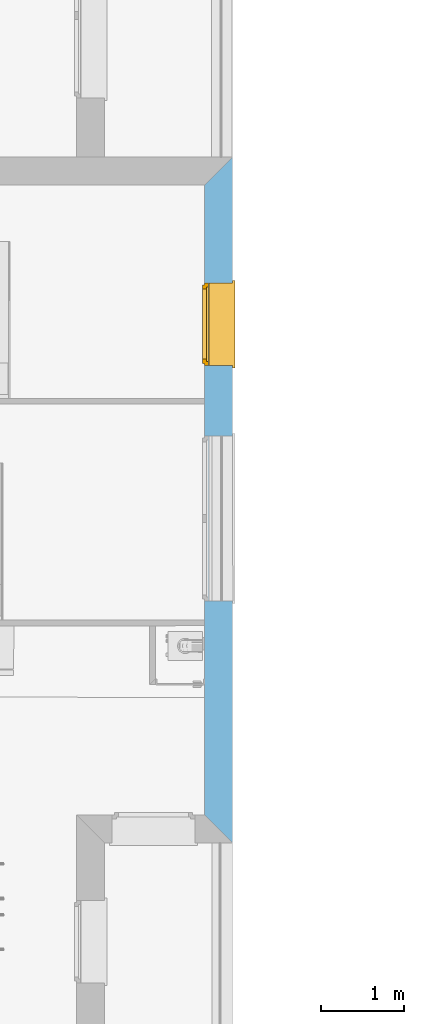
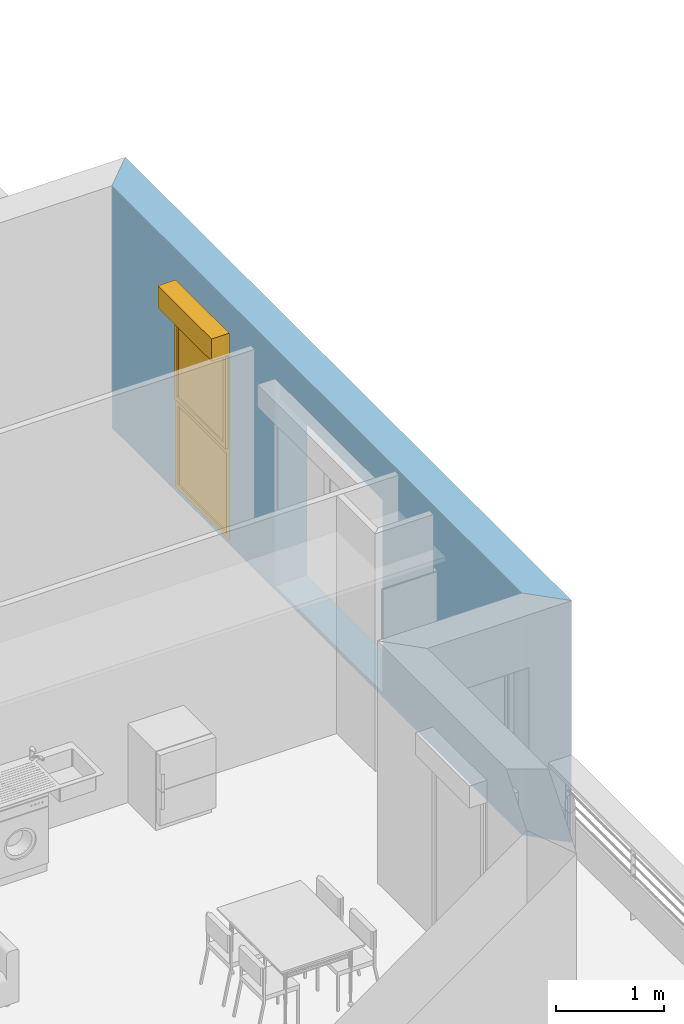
# One storey, part 18 of 164: 1 window, 2 openings, plus 1 element that does not belong to this part.
"""IFC2X3 building model written with IfcOpenShell, lengths in millimetres."""

from ifc_helpers import new_model, entity, si_unit, converted_unit, derived_unit, money_unit, direction, frame, origin_with_axes, place, context, subcontext, project, spatial, polyline, outline, extrude, open_shell, faceted_brep, surface_model, source, transform, mapped, material, layer, layer_set, layer_usage, type_object, element, fill, save


model = new_model("IFC2X3")

# Units and contexts
model_context = context("Model", 3, precision=0.01, world=origin_with_axes(), true_north=direction((0.0, 1.0)))
body_context = subcontext(model_context, "Body", "Model", "MODEL_VIEW")
ifc_project = project(units=[si_unit("LENGTHUNIT", "METRE", prefix="MILLI"), si_unit("AREAUNIT", "SQUARE_METRE"), si_unit("VOLUMEUNIT", "CUBIC_METRE"), converted_unit("PLANEANGLEUNIT", "DEGREE", entity("IfcPlaneAngleMeasure", 0.0174532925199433), si_unit("PLANEANGLEUNIT", "RADIAN"), dimensions=[0, 0, 0, 0, 0, 0, 0]), money_unit("USD"), converted_unit("TIMEUNIT", "Year", entity("IfcTimeMeasure", 31557600.0), si_unit("TIMEUNIT", "SECOND"), dimensions=[0, 0, 1, 0, 0, 0, 0]), si_unit("MASSUNIT", "GRAM", prefix="KILO"), si_unit("THERMODYNAMICTEMPERATUREUNIT", "DEGREE_CELSIUS"), si_unit("LUMINOUSINTENSITYUNIT", "LUMEN"), si_unit("ENERGYUNIT", "JOULE", prefix="MEGA"), derived_unit("THERMALCONDUCTANCEUNIT", [(si_unit("POWERUNIT", "WATT"), 1), (si_unit("LENGTHUNIT", "METRE"), -1), (si_unit("THERMODYNAMICTEMPERATUREUNIT", "KELVIN"), -1)]), derived_unit("SPECIFICHEATCAPACITYUNIT", [(si_unit("ENERGYUNIT", "JOULE"), 1), (si_unit("MASSUNIT", "GRAM", prefix="KILO"), -1), (si_unit("THERMODYNAMICTEMPERATUREUNIT", "KELVIN"), -1)]), derived_unit("MASSDENSITYUNIT", [(si_unit("MASSUNIT", "GRAM", prefix="KILO"), 1), (si_unit("VOLUMEUNIT", "CUBIC_METRE"), -1)])], contexts=[model_context])

# Site, building, storey
site_placement = place(None, origin_with_axes())
site = spatial("IfcSite", under=ifc_project, at=site_placement, Name="Site", CompositionType="ELEMENT")
building_placement = place(site_placement, origin_with_axes())
building = spatial("IfcBuilding", under=site, at=building_placement, Name="Bâtiment", CompositionType="ELEMENT")
storey_placement = place(building_placement, frame((0.0, 0.0, 5750.0), z_axis=(0.0, 0.0, 1.0), x_axis=(1.0, 0.0, 0.0)))
storey = spatial("IfcBuildingStorey", under=building, at=storey_placement, Name="Etage1", CompositionType="ELEMENT", Elevation=5750.0)

# Wall, openings, window
ifc_material_1 = material(Name="Parpaing 312445824")
ifc_layer_1 = layer(ifc_material_1, 180.0, ventilated="UNKNOWN")
ifc_material_2 = material(Name="Isolant styromousse 301821074")
ifc_layer_2 = layer(ifc_material_2, 160.0, ventilated="UNKNOWN")
ifc_layer_set = layer_set([ifc_layer_1, ifc_layer_2], Name="isol int 18+16 0018356637")
ifc_layer_usage = layer_usage(ifc_layer_set, "AXIS2", "POSITIVE", 0.0)
wall_type = type_object("IfcWallType", Name="isol int 18+16 0018356637 340", PredefinedType="NOTDEFINED")
wall_placement = place(storey_placement, frame((2234356.671296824, -655041.4677782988, 0.0), z_axis=(0.0, 0.0, 1.0), x_axis=(0.0, 1.0, 0.0)))
wall = element("IfcWallStandardCase", 1, at=wall_placement, inside=storey, type_object=wall_type, material=ifc_layer_usage, Name="Mur-144", context=body_context, shape_type="SweptSolid", body=[
    extrude(outline(polyline([(0.0, 0.0), (8303.026474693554, 0.0), (7963.02647469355, 340.0000000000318), (339.9999999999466, 340.0000000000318), (0.0, 0.0)])), origin_with_axes(), (0.0, 0.0, 1.0), 2750.0),
])
opening_1_placement = place(wall_placement, frame((3927.8378465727, -2.273736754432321e-10, 49.99999999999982), z_axis=(0.0, 0.0, 1.0), x_axis=(1.0, 0.0, 0.0)))
element("IfcOpeningElement", 2, at=opening_1_placement, cuts=wall, Name="Fen-207", context=body_context, shape_type="Brep", body=[
    faceted_brep([(1000.0, 290.0000000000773, 2100.0), (1000.0, 280.0000000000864, 2100.0), (1000.0, -0.9999999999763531, 2100.0), (1000.0, -0.9999999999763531, 0.0), (1000.0, 290.0000000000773, 0.0), (1000.0, 341.0000000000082, 2100.0), (1000.0, 530.0000000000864, 2100.0), (1000.0, 530.0000000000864, 2350.0), (1000.0, 280.0000000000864, 2350.0), (-1000.0, 280.0000000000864, 2100.0), (-1000.0, -0.9999999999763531, 2100.0), (-1000.0, -0.9999999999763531, 0.0), (-1000.0, 290.0000000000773, 0.0), (-1000.0, 341.0000000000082, 0.0), (1000.0, 341.0000000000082, 0.0), (-1000.0, 341.0000000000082, 2100.0), (-1000.0, 530.0000000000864, 2100.0), (-1000.0, 530.0000000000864, 2350.0), (-1000.0, 280.0000000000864, 2350.0), (-1000.0, 290.0000000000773, 2100.0)], [[[0, 1, 2, 3, 4]], [[1, 0, 5, 6, 7, 8]], [[1, 9, 10, 2]], [[10, 11, 3, 2]], [[4, 3, 11, 12, 13, 14]], [[5, 0, 4, 14]], [[5, 15, 16, 6]], [[7, 6, 16, 17]], [[8, 7, 17, 18]], [[9, 1, 8, 18]], [[9, 19, 12, 11, 10]], [[19, 15, 13, 12]], [[15, 5, 14, 13]], [[19, 9, 18, 17, 16, 15]]]),
])
opening_2_placement = place(wall_placement, frame((6281.330882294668, -2.273736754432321e-10, 49.99999999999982), z_axis=(0.0, 0.0, 1.0), x_axis=(1.0, 0.0, 0.0)))
opening_2 = element("IfcOpeningElement", 3, at=opening_2_placement, cuts=wall, Name="Fen-133", context=body_context, shape_type="Brep", body=[
    faceted_brep([(500.0, 290.0000000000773, 2100.0), (500.0, 280.0000000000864, 2100.0), (500.0, -0.9999999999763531, 2100.0), (500.0, -0.9999999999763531, 0.0), (500.0, 290.0000000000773, 0.0), (500.0, 341.0000000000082, 2100.0), (500.0, 530.0000000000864, 2100.0), (500.0, 530.0000000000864, 2350.0), (500.0, 280.0000000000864, 2350.0), (-500.0, 280.0000000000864, 2100.0), (-500.0, -0.9999999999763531, 2100.0), (-500.0, -0.9999999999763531, 0.0), (-500.0, 290.0000000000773, 0.0), (-500.0, 341.0000000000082, 0.0), (500.0, 341.0000000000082, 0.0), (-500.0, 341.0000000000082, 2100.0), (-500.0, 530.0000000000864, 2100.0), (-500.0, 530.0000000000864, 2350.0), (-500.0, 280.0000000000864, 2350.0), (-500.0, 290.0000000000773, 2100.0)], [[[0, 1, 2, 3, 4]], [[1, 0, 5, 6, 7, 8]], [[1, 9, 10, 2]], [[10, 11, 3, 2]], [[4, 3, 11, 12, 13, 14]], [[5, 0, 4, 14]], [[5, 15, 16, 6]], [[7, 6, 16, 17]], [[8, 7, 17, 18]], [[9, 1, 8, 18]], [[9, 19, 12, 11, 10]], [[19, 15, 13, 12]], [[15, 5, 14, 13]], [[19, 9, 18, 17, 16, 15]]]),
])
window_style = type_object("IfcWindowStyle", Name="Fenêtre 27", ConstructionType="NOTDEFINED", OperationType="DOUBLE_PANEL_HORIZONTAL", ParameterTakesPrecedence=False, Sizeable=False)
shared_shape = source(origin_with_axes(), body_context, "Body", "SurfaceModel", [
    surface_model("IfcShellBasedSurfaceModel", [(500.0, -51.00000000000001, 40.00000000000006), (500.0, -51.00000000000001, 50.00000000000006), (-500.0, -51.00000000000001, 50.0), (-500.0, -51.00000000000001, 40.0), (530.0, -369.9999999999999, 28.96551724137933), (530.0, -339.9999999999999, 30.00324289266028), (500.0, -339.9999999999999, 30.00324289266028), (-500.0, -339.9999999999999, 30.00324289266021), (-530.0, -339.9999999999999, 30.00324289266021), (-530.0, -369.9999999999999, 28.96551724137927), (530.0, -369.9999999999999, 8.96551724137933), (-530.0, -369.9999999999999, 8.965517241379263), (530.0, -359.9999999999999, 18.96551724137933), (-530.0, -359.9999999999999, 18.96551724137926)], [open_shell([[[0, 1, 2, 3]], [[4, 5, 6, 0, 3, 7, 8, 9]], [[10, 4, 9, 11]], [[12, 10, 11, 13]]])]),
    faceted_brep([(-500.0, -59.99999999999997, 2350.0), (-497.0, -59.99999999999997, 2350.0), (-497.0, 190.0, 2350.0), (-500.0, 190.0, 2350.0), (-500.0, -59.99999999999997, 2100.0), (-497.0, -59.99999999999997, 2100.0), (-497.0, 190.0, 2100.0), (-500.0, 190.0, 2100.0)], [[[0, 1, 2, 3]], [[4, 5, 1, 0]], [[1, 5, 6, 2]], [[3, 2, 6, 7]], [[0, 3, 7, 4]], [[7, 6, 5, 4]]]),
    faceted_brep([(497.0, -59.99999999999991, 2350.0), (500.0, -59.99999999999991, 2350.0), (500.0, 190.0000000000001, 2350.0), (497.0, 190.0000000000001, 2350.0), (497.0, -59.99999999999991, 2100.0), (500.0, -59.99999999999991, 2100.0), (500.0, 190.0000000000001, 2100.0), (497.0, 190.0000000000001, 2100.0)], [[[0, 1, 2, 3]], [[4, 5, 1, 0]], [[1, 5, 6, 2]], [[3, 2, 6, 7]], [[0, 3, 7, 4]], [[7, 6, 5, 4]]]),
    faceted_brep([(-497.0, -60.0, 2100.0), (497.0, -59.99999999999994, 2100.0), (497.0, -59.99999999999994, 2350.0), (-497.0, -60.0, 2350.0), (-497.0, -56.99999999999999, 2100.0), (497.0, -56.99999999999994, 2100.0), (497.0, -56.99999999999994, 2347.0), (497.0, 187.0000000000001, 2347.0), (497.0, 187.0000000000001, 2103.0), (497.0, -37.99999999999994, 2103.0), (497.0, -37.99999999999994, 2100.0), (497.0, 190.0000000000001, 2100.0), (497.0, 190.0000000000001, 2350.0), (-497.0, 190.0, 2350.0), (-497.0, 190.0, 2100.0), (-497.0, -37.99999999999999, 2100.0), (-497.0, -37.99999999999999, 2103.0), (-497.0, 187.0, 2103.0), (-497.0, 187.0, 2347.0), (-497.0, -56.99999999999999, 2347.0)], [[[0, 1, 2, 3]], [[4, 5, 1, 0]], [[1, 5, 6, 7, 8, 9, 10, 11, 12, 2]], [[3, 2, 12, 13]], [[0, 3, 13, 14, 15, 16, 17, 18, 19, 4]], [[19, 6, 5, 4]], [[18, 7, 6, 19]], [[17, 8, 7, 18]], [[16, 9, 8, 17]], [[15, 10, 9, 16]], [[14, 11, 10, 15]], [[13, 12, 11, 14]]]),
    faceted_brep([(-494.0, -40.37442957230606, 2206.419644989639), (-494.0, -41.99999999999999, 2225.0), (-494.0, -40.37442957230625, 2243.580355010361), (-494.0, -35.54711042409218, 2261.596155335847), (-494.0, -27.66471820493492, 2278.5), (-494.0, -16.96675541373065, 2293.77827423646), (-494.0, -3.778274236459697, 2306.966755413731), (-494.0, 11.5, 2317.664718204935), (-494.0, 28.40384466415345, 2325.547110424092), (-494.0, 46.41964498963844, 2330.374429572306), (-494.0, 64.99999999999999, 2332.0), (-494.0, 83.58035501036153, 2330.374429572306), (-494.0, 101.5961553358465, 2325.547110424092), (-494.0, 118.5, 2317.664718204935), (-494.0, 133.7782742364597, 2306.966755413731), (-494.0, 146.9667554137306, 2293.77827423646), (-494.0, 157.6647182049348, 2278.5), (-494.0, 165.5471104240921, 2261.596155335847), (-494.0, 170.3744295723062, 2243.580355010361), (-494.0, 171.9999999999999, 2225.0), (-494.0, 170.3744295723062, 2206.419644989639), (-494.0, 165.5471104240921, 2188.403844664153), (-494.0, 157.6647182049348, 2171.5), (-494.0, 146.9667554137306, 2156.22172576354), (-494.0, 133.7782742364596, 2143.03324458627), (-494.0, 118.4999999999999, 2132.335281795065), (-494.0, 101.5961553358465, 2124.452889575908), (-494.0, 83.58035501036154, 2119.625570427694), (-494.0, 65.00000000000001, 2118.0), (-494.0, 46.4196449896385, 2119.625570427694), (-494.0, 28.40384466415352, 2124.452889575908), (-494.0, 11.50000000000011, 2132.335281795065), (-494.0, -3.778274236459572, 2143.03324458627), (-494.0, -16.9667554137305, 2156.22172576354), (-494.0, -27.66471820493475, 2171.5), (-494.0, -35.54711042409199, 2188.403844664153), (494.0, -40.374429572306, 2206.419644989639), (494.0, -41.99999999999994, 2225.0), (494.0, -40.37442957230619, 2243.580355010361), (494.0, -35.54711042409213, 2261.596155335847), (494.0, -27.66471820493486, 2278.5), (494.0, -16.96675541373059, 2293.77827423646), (494.0, -3.778274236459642, 2306.966755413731), (494.0, 11.50000000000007, 2317.664718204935), (494.0, 28.40384466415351, 2325.547110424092), (494.0, 46.41964498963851, 2330.374429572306), (494.0, 65.00000000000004, 2332.0), (494.0, 83.58035501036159, 2330.374429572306), (494.0, 101.5961553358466, 2325.547110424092), (494.0, 118.5, 2317.664718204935), (494.0, 133.7782742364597, 2306.966755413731), (494.0, 146.9667554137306, 2293.77827423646), (494.0, 157.6647182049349, 2278.5), (494.0, 165.5471104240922, 2261.596155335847), (494.0, 170.3744295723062, 2243.580355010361), (494.0, 172.0, 2225.0), (494.0, 170.3744295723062, 2206.419644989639), (494.0, 165.5471104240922, 2188.403844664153), (494.0, 157.6647182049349, 2171.5), (494.0, 146.9667554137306, 2156.22172576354), (494.0, 133.7782742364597, 2143.03324458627), (494.0, 118.5, 2132.335281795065), (494.0, 101.5961553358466, 2124.452889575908), (494.0, 83.5803550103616, 2119.625570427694), (494.0, 65.00000000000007, 2118.0), (494.0, 46.41964498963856, 2119.625570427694), (494.0, 28.40384466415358, 2124.452889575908), (494.0, 11.50000000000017, 2132.335281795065), (494.0, -3.778274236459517, 2143.03324458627), (494.0, -16.96675541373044, 2156.22172576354), (494.0, -27.6647182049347, 2171.5), (494.0, -35.54711042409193, 2188.403844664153)], [[[0, 1, 2, 3, 4, 5, 6, 7, 8, 9, 10, 11, 12, 13, 14, 15, 16, 17, 18, 19, 20, 21, 22, 23, 24, 25, 26, 27, 28, 29, 30, 31, 32, 33, 34, 35]], [[0, 36, 37, 1]], [[1, 37, 38, 2]], [[2, 38, 39, 3]], [[3, 39, 40, 4]], [[4, 40, 41, 5]], [[5, 41, 42, 6]], [[6, 42, 43, 7]], [[7, 43, 44, 8]], [[8, 44, 45, 9]], [[9, 45, 46, 10]], [[10, 46, 47, 11]], [[11, 47, 48, 12]], [[12, 48, 49, 13]], [[13, 49, 50, 14]], [[14, 50, 51, 15]], [[15, 51, 52, 16]], [[16, 52, 53, 17]], [[17, 53, 54, 18]], [[18, 54, 55, 19]], [[19, 55, 56, 20]], [[20, 56, 57, 21]], [[21, 57, 58, 22]], [[22, 58, 59, 23]], [[23, 59, 60, 24]], [[24, 60, 61, 25]], [[25, 61, 62, 26]], [[26, 62, 63, 27]], [[27, 63, 64, 28]], [[28, 64, 65, 29]], [[29, 65, 66, 30]], [[30, 66, 67, 31]], [[31, 67, 68, 32]], [[32, 68, 69, 33]], [[33, 69, 70, 34]], [[34, 70, 71, 35]], [[35, 71, 36, 0]], [[36, 71, 70, 69, 68, 67, 66, 65, 64, 63, 62, 61, 60, 59, 58, 57, 56, 55, 54, 53, 52, 51, 50, 49, 48, 47, 46, 45, 44, 43, 42, 41, 40, 39, 38, 37]]]),
    faceted_brep([(500.0, -34.99999999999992, 30.0), (500.0, -34.99999999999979, 2100.0), (500.0, -59.99999999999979, 2100.0), (500.0, -59.99999999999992, 30.0), (475.0, -34.99999999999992, 30.0), (475.0, -34.99999999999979, 2100.0), (475.0, -37.99999999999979, 2100.0), (497.0, -37.99999999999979, 2100.0), (497.0, -56.99999999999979, 2100.0), (475.0, -56.99999999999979, 2100.0), (475.0, -59.99999999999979, 2100.0), (475.0, -59.99999999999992, 30.0), (475.0, -56.99999999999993, 30.0), (497.0, -56.99999999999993, 30.0), (497.0, -37.99999999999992, 30.0), (475.0, -37.99999999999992, 30.0)], [[[0, 1, 2, 3]], [[4, 5, 1, 0]], [[1, 5, 6, 7, 8, 9, 10, 2]], [[3, 2, 10, 11]], [[0, 3, 11, 12, 13, 14, 15, 4]], [[15, 6, 5, 4]], [[14, 7, 6, 15]], [[13, 8, 7, 14]], [[12, 9, 8, 13]], [[11, 10, 9, 12]]]),
    faceted_brep([(-500.0, -34.99999999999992, 30.0), (-500.0, -59.99999999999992, 30.0), (-500.0, -59.99999999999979, 2100.0), (-500.0, -34.99999999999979, 2100.0), (-475.0, -34.99999999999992, 30.0), (-475.0, -37.99999999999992, 30.0), (-497.0, -37.99999999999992, 30.0), (-497.0, -56.99999999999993, 30.0), (-475.0, -56.99999999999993, 30.0), (-475.0, -59.99999999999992, 30.0), (-475.0, -59.99999999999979, 2100.0), (-475.0, -56.99999999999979, 2100.0), (-497.0, -56.99999999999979, 2100.0), (-497.0, -37.99999999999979, 2100.0), (-475.0, -37.99999999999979, 2100.0), (-475.0, -34.99999999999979, 2100.0)], [[[0, 1, 2, 3]], [[0, 4, 5, 6, 7, 8, 9, 1]], [[1, 9, 10, 2]], [[3, 2, 10, 11, 12, 13, 14, 15]], [[4, 0, 3, 15]], [[5, 4, 15, 14]], [[6, 5, 14, 13]], [[7, 6, 13, 12]], [[8, 7, 12, 11]], [[9, 8, 11, 10]]]),
    faceted_brep([(497.0, -46.66666666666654, 2225.0), (497.0, -46.66666666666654, 2216.666666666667), (-497.0, -46.6666666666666, 2216.666666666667), (-497.0, -46.6666666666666, 2225.0), (497.0, -51.66666666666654, 2225.0), (497.0, -51.66666666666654, 2216.666666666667), (497.0, -49.99999999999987, 2200.0), (497.0, -44.99999999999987, 2200.0), (-497.0, -44.99999999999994, 2200.0), (-497.0, -49.99999999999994, 2200.0), (-497.0, -51.6666666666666, 2216.666666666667), (-497.0, -51.6666666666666, 2225.0)], [[[0, 1, 2, 3]], [[4, 5, 6, 7, 1, 0]], [[2, 1, 7, 8]], [[3, 2, 8, 9, 10, 11]], [[3, 11, 4, 0]], [[10, 5, 4, 11]], [[9, 6, 5, 10]], [[8, 7, 6, 9]]]),
    faceted_brep([(-497.0, -44.99999999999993, 2200.0), (497.0, -44.99999999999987, 2200.0), (497.0, -46.66666666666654, 2183.333333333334), (-497.0, -46.6666666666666, 2183.333333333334), (-497.0, -49.99999999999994, 2200.0), (497.0, -49.99999999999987, 2200.0), (497.0, -51.66666666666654, 2183.333333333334), (497.0, -51.66666666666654, 2166.666666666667), (497.0, -49.99999999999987, 2150.000000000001), (497.0, -44.99999999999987, 2150.000000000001), (497.0, -46.66666666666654, 2166.666666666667), (-497.0, -46.6666666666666, 2166.666666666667), (-497.0, -44.99999999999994, 2150.000000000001), (-497.0, -49.99999999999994, 2150.000000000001), (-497.0, -51.6666666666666, 2166.666666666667), (-497.0, -51.6666666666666, 2183.333333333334)], [[[0, 1, 2, 3]], [[4, 5, 1, 0]], [[1, 5, 6, 7, 8, 9, 10, 2]], [[3, 2, 10, 11]], [[0, 3, 11, 12, 13, 14, 15, 4]], [[15, 6, 5, 4]], [[14, 7, 6, 15]], [[13, 8, 7, 14]], [[12, 9, 8, 13]], [[11, 10, 9, 12]]]),
    faceted_brep([(-497.0, -44.99999999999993, 2150.000000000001), (497.0, -44.99999999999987, 2150.000000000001), (497.0, -46.66666666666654, 2133.333333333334), (-497.0, -46.6666666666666, 2133.333333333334), (-497.0, -49.99999999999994, 2150.000000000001), (497.0, -49.99999999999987, 2150.000000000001), (497.0, -51.66666666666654, 2133.333333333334), (497.0, -51.66666666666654, 2116.666666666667), (497.0, -49.99999999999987, 2100.000000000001), (497.0, -44.99999999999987, 2100.000000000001), (497.0, -46.66666666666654, 2116.666666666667), (-497.0, -46.6666666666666, 2116.666666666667), (-497.0, -44.99999999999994, 2100.000000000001), (-497.0, -49.99999999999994, 2100.000000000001), (-497.0, -51.6666666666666, 2116.666666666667), (-497.0, -51.6666666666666, 2133.333333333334)], [[[0, 1, 2, 3]], [[4, 5, 1, 0]], [[1, 5, 6, 7, 8, 9, 10, 2]], [[3, 2, 10, 11]], [[0, 3, 11, 12, 13, 14, 15, 4]], [[15, 6, 5, 4]], [[14, 7, 6, 15]], [[13, 8, 7, 14]], [[12, 9, 8, 13]], [[11, 10, 9, 12]]]),
    faceted_brep([(-475.0000000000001, 0.0, 2050.0), (-500.0, 0.0, 2050.0), (-500.0, -50.00000000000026, 2050.0), (-450.0, -50.00000000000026, 2050.0), (-450.0, -25.00000000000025, 2050.0), (-475.0000000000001, -25.00000000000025, 2050.0), (-475.0000000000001, 0.0, 1025.0), (-450.0, 0.0, 1025.0), (-450.0, 0.0, 950.0), (-450.0, 0.0, 50.00000000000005), (-500.0, 0.0, 50.00000000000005), (-500.0, -50.00000000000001, 50.00000000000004), (-450.0, -50.00000000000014, 1050.0), (-450.0, -50.00000000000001, 50.00000000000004), (-450.0, -50.00000000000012, 950.0), (-450.0, -25.00000000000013, 1050.0), (-450.0, -25.00000000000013, 1025.0), (-475.0000000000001, -25.00000000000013, 1025.0)], [[[0, 1, 2, 3, 4, 5]], [[6, 7, 8, 9, 10, 1, 0]], [[1, 10, 11, 2]], [[12, 3, 2, 11, 13, 14]], [[4, 3, 12, 15]], [[15, 16, 17, 5, 4]], [[5, 17, 6, 0]], [[6, 17, 16, 7]], [[16, 15, 12, 14, 8, 7]], [[9, 8, 14, 13]], [[10, 9, 13, 11]]]),
    faceted_brep([(450.0, -25.00000000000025, 2050.0), (450.0, -50.00000000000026, 2050.0), (500.0, -50.00000000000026, 2050.0), (500.0, 0.0, 2050.0), (475.0000000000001, 0.0, 2050.0), (475.0000000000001, -25.00000000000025, 2050.0), (450.0, -25.00000000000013, 1050.0), (450.0, -50.00000000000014, 1050.0), (500.0, -50.00000000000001, 50.00000000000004), (450.0, -50.00000000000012, 950.0), (450.0, -50.00000000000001, 50.00000000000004), (500.0, 0.0, 50.00000000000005), (475.0000000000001, 0.0, 1025.0), (450.0, 0.0, 50.00000000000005), (450.0, 0.0, 950.0), (450.0, 0.0, 1025.0), (475.0000000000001, -25.00000000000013, 1025.0), (450.0, -25.00000000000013, 1025.0)], [[[0, 1, 2, 3, 4, 5]], [[6, 7, 1, 0]], [[8, 2, 1, 7, 9, 10]], [[11, 3, 2, 8]], [[12, 4, 3, 11, 13, 14, 15]], [[12, 16, 5, 4]], [[5, 16, 17, 6, 0]], [[17, 15, 14, 9, 7, 6]], [[14, 13, 10, 9]], [[13, 11, 8, 10]], [[15, 17, 16, 12]]]),
    faceted_brep([(-450.0, -25.00000000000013, 1050.0), (-450.0, -50.00000000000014, 1050.0), (450.0, -50.00000000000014, 1050.0), (450.0, -25.00000000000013, 1050.0), (-450.0, -25.00000000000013, 1025.0), (-450.0, 0.0, 1025.0), (-450.0, 0.0, 950.0), (-450.0, -50.00000000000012, 950.0), (450.0, -50.00000000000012, 950.0), (450.0, -25.00000000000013, 1025.0), (450.0, 0.0, 950.0), (450.0, 0.0, 1025.0)], [[[0, 1, 2, 3]], [[4, 5, 6, 7, 1, 0]], [[8, 2, 1, 7]], [[9, 3, 2, 8, 10, 11]], [[9, 4, 0, 3]], [[5, 4, 9, 11]], [[11, 10, 6, 5]], [[6, 10, 8, 7]]]),
    faceted_brep([(-475.0000000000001, 0.0, 2050.0), (-500.0, 0.0, 2050.0), (-500.0, 0.0, 2100.0), (500.0, 0.0, 2100.0), (500.0, 0.0, 2050.0), (475.0000000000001, 0.0, 2050.0), (475.0000000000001, 0.0, 2075.0), (-475.0000000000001, 0.0, 2075.0), (-475.0000000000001, -25.00000000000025, 2050.0), (-450.0, -25.00000000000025, 2050.0), (-450.0, -50.00000000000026, 2050.0), (-500.0, -50.00000000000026, 2050.0), (-500.0, -50.00000000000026, 2100.0), (500.0, -50.00000000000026, 2100.0), (500.0, -50.00000000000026, 2050.0), (475.0000000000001, -25.00000000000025, 2050.0), (450.0, -50.00000000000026, 2050.0), (450.0, -25.00000000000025, 2050.0), (475.0000000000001, -25.00000000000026, 2075.0), (-475.0000000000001, -25.00000000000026, 2075.0)], [[[0, 1, 2, 3, 4, 5, 6, 7]], [[8, 9, 10, 11, 1, 0]], [[2, 1, 11, 12]], [[3, 2, 12, 13]], [[4, 3, 13, 14]], [[15, 5, 4, 14, 16, 17]], [[5, 15, 18, 6]], [[6, 18, 19, 7]], [[7, 19, 8, 0]], [[17, 9, 8, 19, 18, 15]], [[17, 16, 10, 9]], [[14, 13, 12, 11, 10, 16]]]),
    faceted_brep([(-450.0, -50.00000000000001, 50.0), (-450.0, 0.0, 50.00000000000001), (-500.0, 0.0, 50.00000000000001), (-500.0, -50.00000000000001, 50.0), (450.0, -50.00000000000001, 50.0), (450.0, 0.0, 50.00000000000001), (500.0, 0.0, 50.00000000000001), (500.0, 0.0, 0.0), (-500.0, 0.0, 0.0), (-500.0, -50.0, 0.0), (500.0, -50.0, 0.0), (500.0, -50.00000000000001, 50.0)], [[[0, 1, 2, 3]], [[4, 5, 1, 0]], [[1, 5, 6, 7, 8, 2]], [[3, 2, 8, 9]], [[0, 3, 9, 10, 11, 4]], [[11, 6, 5, 4]], [[10, 7, 6, 11]], [[9, 8, 7, 10]]]),
    faceted_brep([(-425.0000000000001, -25.00000000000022, 2025.0), (-425.0000000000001, 24.99999999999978, 2025.0), (-475.0000000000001, 24.99999999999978, 2025.0), (-475.0000000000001, -25.00000000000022, 2025.0), (-425.0000000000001, -25.00000000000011, 1075.0), (-425.0000000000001, 24.9999999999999, 1075.0), (-475.0000000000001, 24.9999999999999, 1075.0), (-475.0000000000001, -25.0000000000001, 1075.0)], [[[0, 1, 2, 3]], [[4, 5, 1, 0]], [[1, 5, 6, 2]], [[3, 2, 6, 7]], [[0, 3, 7, 4]], [[7, 6, 5, 4]]]),
    faceted_brep([(425.0000000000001, -25.00000000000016, 1075.0), (425.0000000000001, 24.99999999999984, 1075.0), (475.0000000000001, 24.99999999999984, 1075.0), (475.0000000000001, -25.00000000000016, 1075.0), (425.0000000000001, -25.00000000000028, 2025.0), (425.0000000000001, 24.99999999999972, 2025.0), (475.0000000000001, 24.99999999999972, 2025.0), (475.0000000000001, -25.00000000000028, 2025.0)], [[[0, 1, 2, 3]], [[4, 5, 1, 0]], [[1, 5, 6, 2]], [[3, 2, 6, 7]], [[0, 3, 7, 4]], [[7, 6, 5, 4]]]),
    faceted_brep([(475.0000000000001, -25.00000000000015, 1025.0), (475.0000000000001, 24.99999999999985, 1025.0), (475.0000000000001, 24.99999999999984, 1075.0), (475.0000000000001, -25.00000000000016, 1075.0), (-475.0000000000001, -25.0000000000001, 1025.0), (-475.0000000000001, 24.9999999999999, 1025.0), (-475.0000000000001, 24.9999999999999, 1075.0), (-425.0000000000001, 24.9999999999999, 1075.0), (425.0000000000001, 24.99999999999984, 1075.0), (425.0000000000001, -25.00000000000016, 1075.0), (-425.0000000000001, -25.00000000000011, 1075.0), (-475.0000000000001, -25.0000000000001, 1075.0)], [[[0, 1, 2, 3]], [[4, 5, 1, 0]], [[1, 5, 6, 7, 8, 2]], [[3, 2, 8, 9]], [[0, 3, 9, 10, 11, 4]], [[11, 6, 5, 4]], [[10, 7, 6, 11]], [[9, 8, 7, 10]]]),
    faceted_brep([(-475.0000000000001, -25.00000000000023, 2075.0), (-475.0000000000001, 24.99999999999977, 2075.0), (-475.0000000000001, 24.99999999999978, 2025.0), (-475.0000000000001, -25.00000000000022, 2025.0), (475.0000000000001, -25.00000000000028, 2075.0), (475.0000000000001, 24.99999999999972, 2075.0), (475.0000000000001, 24.99999999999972, 2025.0), (425.0000000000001, 24.99999999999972, 2025.0), (-425.0000000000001, 24.99999999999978, 2025.0), (-425.0000000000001, -25.00000000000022, 2025.0), (425.0000000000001, -25.00000000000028, 2025.0), (475.0000000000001, -25.00000000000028, 2025.0)], [[[0, 1, 2, 3]], [[4, 5, 1, 0]], [[1, 5, 6, 7, 8, 2]], [[3, 2, 8, 9]], [[0, 3, 9, 10, 11, 4]], [[11, 6, 5, 4]], [[10, 7, 6, 11]], [[9, 8, 7, 10]]]),
    surface_model("IfcShellBasedSurfaceModel", [(-425.0000000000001, -10.00000000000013, 1075.0), (425.0000000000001, -10.00000000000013, 1075.0), (425.0000000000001, -10.00000000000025, 2025.0), (-425.0000000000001, -10.00000000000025, 2025.0)], [open_shell([[[0, 1, 2, 3]]])]),
    surface_model("IfcShellBasedSurfaceModel", [(-425.0000000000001, 9.999999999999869, 1075.0), (-425.0000000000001, 9.999999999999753, 2025.0), (425.0000000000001, 9.999999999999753, 2025.0), (425.0000000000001, 9.999999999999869, 1075.0)], [open_shell([[[0, 1, 2, 3]]])]),
    surface_model("IfcShellBasedSurfaceModel", [(-450.0, -35.0, 49.99999999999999), (450.0, -35.0, 49.99999999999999), (450.0, -35.00000000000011, 950.0), (-450.0, -35.00000000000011, 950.0)], [open_shell([[[0, 1, 2, 3]]])]),
    surface_model("IfcShellBasedSurfaceModel", [(-450.0, -15.0, 49.99999999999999), (-450.0, -15.00000000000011, 950.0), (450.0, -15.00000000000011, 950.0), (450.0, -15.0, 49.99999999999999)], [open_shell([[[0, 1, 2, 3]]])]),
])
window_placement = place(opening_2_placement, frame((-500.0000000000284, -2.273736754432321e-10, 0.0), z_axis=(0.0, 0.0, 1.0), x_axis=(1.0, 0.0, 0.0)))
window = element("IfcWindow", 4, at=window_placement, inside=storey, type_object=window_style, Name="Fen-133", OverallHeight=2100.0, OverallWidth=1000.0, context=body_context, shape_type="MappedRepresentation", body=[
    mapped(shared_shape, transform((500.0, 340.0000000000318, 0.0))),
])
fill(opening_2, window)

save(model, "model.ifc")
